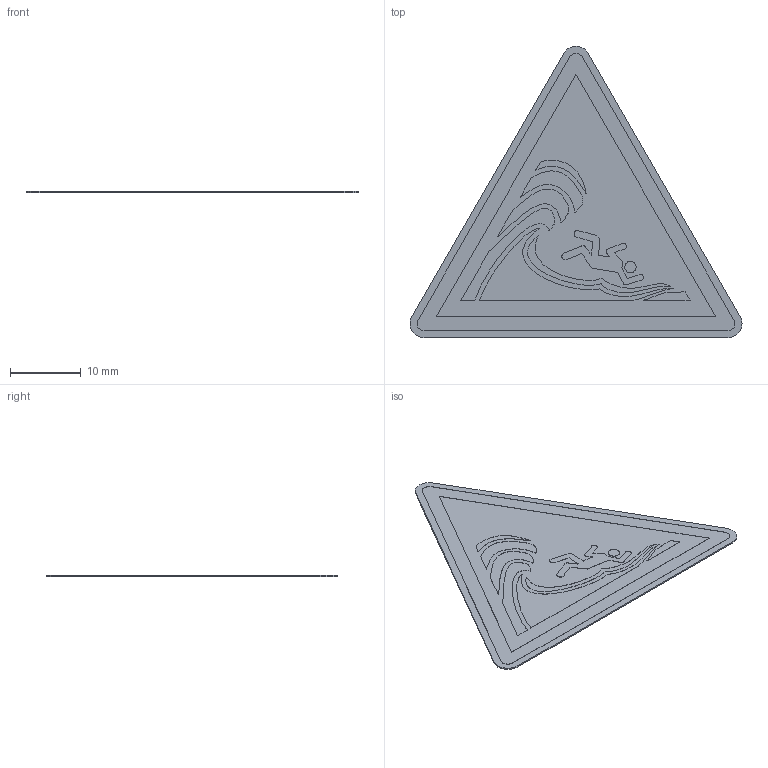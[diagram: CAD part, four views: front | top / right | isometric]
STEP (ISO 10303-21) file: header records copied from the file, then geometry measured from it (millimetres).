
FILE_DESCRIPTION (( 'STEP AP214' ), '1' );
FILE_NAME ('W065_Warnung vor hoher Brandung oder hohen brechenden Wellen.STEP', '2022-03-05T05:32:33', ( '' ), ( '' ), 'SwSTEP 2.0', 'SolidWorks 2021', '' );
FILE_SCHEMA (( 'AUTOMOTIVE_DESIGN' ));
Length unit declared in the file: millimetre
Products named in the file (1): W065_Warnung vor hoher Brandung oder hohen brechenden Wellen
Bounding box: 47.07 x 41.3 x 0.22 mm (x, y, z)
Volume: 223.8 mm3; surface area: 2188 mm2
Topology: 1 solids, 1 shells, 355 faces, 1026 edges, 684 vertices
Faces by surface type: plane 321, cylinder 34
Entity records: 15317 total; most frequent: CARTESIAN_POINT 2066, ORIENTED_EDGE 2052, DIRECTION 1806, EDGE_CURVE 1026, LINE 958, VECTOR 958, VERTEX_POINT 684, AXIS2_PLACEMENT_3D 424
